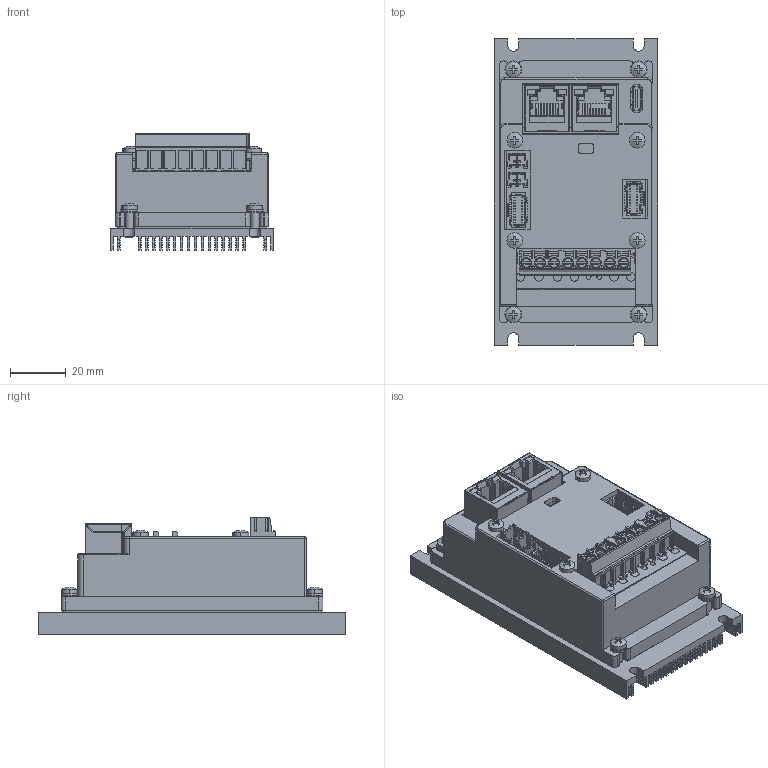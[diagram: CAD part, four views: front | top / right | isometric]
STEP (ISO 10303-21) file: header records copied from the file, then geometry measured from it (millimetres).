
FILE_DESCRIPTION (( 'STEP AP203' ), '1' );
FILE_NAME ('ELD3-EC7010﹜7020BH_20250407.stp', '2025-04-07T08:08:10', ( 'Windows 蚚誧' ), ( 'Organization' ), 'SwSTEP 2.0', 'SolidWorks 2022', '' );
FILE_SCHEMA (( 'CONFIG_CONTROL_DESIGN' ));
Length unit declared in the file: millimetre
Products named in the file (31): LD3-MINI-I_MCAD; 5011902017-MOLXE_1; MOLEX-353620250_1; LD3M-F-DB_ASM; ASM0932; LD3M-MLP_ASM; ECR2ADA471M160250LL03E; LD3M-ECR-C_PCBA_ASM; GZ_LD3M-F_GM; LD3M-F-SR; B40650S0347M001; RJ45-HR915310AE; ISO7045-M3X6-4_8; LD3M-MLP-2; LD3-MINI-P_MCAD; DINENISO7092-3; LD3M-F-DB; LD3-MINI-I_PCBA_ASM; LD3M-ECR-C_V0_3; DG302-5_0-08P; LD3M-F-GZ_ASM; SHEET; LD3M-ECR-C_MCAD; LD3M-MLP; ELD3-EC7010﹜7020BH_20250407; LD3M-F-SR_ASM; LD3M-MLP-2_ASM; ISO7045-M3X10-4_8; SO-M3-6; LD3-MINI-I_V0_2_1; LD3-MINI-P_PCBA_ASM
Assembly tree (45 placements, depth 3):
  LD3M-ECR-C_V0_3
  ELD3-EC7010﹜7020BH_20250407
    LD3M-F-DB_ASM
      LD3M-F-DB
      SO-M3-6
    LD3M-MLP_ASM
      LD3M-MLP
    LD3M-MLP-2_ASM
      LD3M-MLP-2
    LD3-MINI-P_PCBA_ASM
      LD3-MINI-P_MCAD
      ECR2ADA471M160250LL03E
      B40650S0347M001
    LD3-MINI-I_PCBA_ASM
      LD3-MINI-I_MCAD
      ASM0932
      RJ45-HR915310AE  x2
    LD3M-ECR-C_PCBA_ASM
      LD3M-ECR-C_MCAD
      LD3-MINI-I_V0_2_1
      DG302-5_0-08P
      MOLEX-353620250_1  x2
      5011902017-MOLXE_1  x2
    LD3M-F-GZ_ASM
      GZ_LD3M-F_GM
    SHEET
    LD3M-F-SR_ASM
      LD3M-F-SR
    ISO7045-M3X10-4_8  x4
    DINENISO7092-3  x8
    ISO7045-M3X6-4_8  x4
Bounding box: 58.5 x 110 x 41.91 mm (x, y, z)
Volume: 77009.1 mm3; surface area: 136192 mm2
Topology: 28 solids, 130 shells, 6469 faces, 21053 edges, 14850 vertices
Faces by surface type: plane 5006, cylinder 1185, bspline 188, cone 90
Entity records: 193993 total; most frequent: CARTESIAN_POINT 43734, ORIENTED_EDGE 30562, DIRECTION 27907, EDGE_CURVE 17014, LINE 14235, VECTOR 14235, VERTEX_POINT 12258, AXIS2_PLACEMENT_3D 6836
